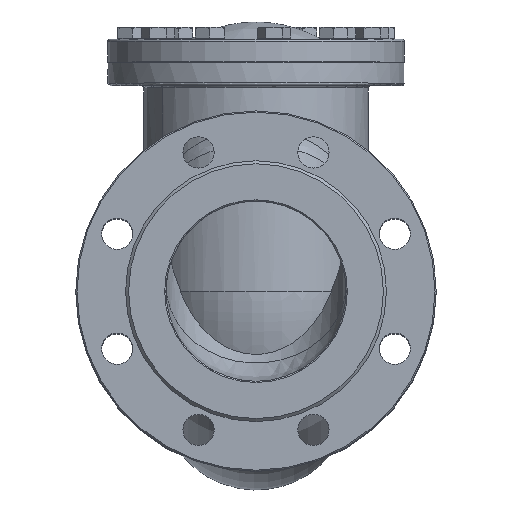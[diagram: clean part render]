
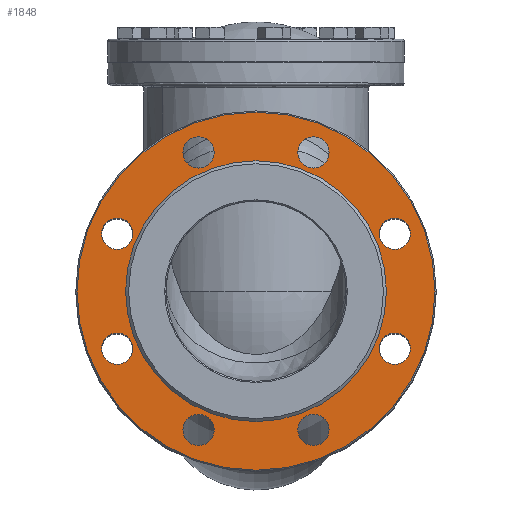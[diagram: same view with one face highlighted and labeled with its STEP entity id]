
A CAD part, top view. The second image highlights one B-rep face of the part: STEP entity #1848.
In plain terms, the highlighted planar face has unit normal (0, 0, 1).
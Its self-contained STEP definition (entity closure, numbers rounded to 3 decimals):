
#1848=ADVANCED_FACE('',(#8282,#8284,#8286,#8288,#8290,#8292,#8294,#8296,#8298,#8300),
#8302,.T.);
#8282=FACE_BOUND('',#8283,.T.);
#8283=EDGE_LOOP('',(#10478));
#8284=FACE_BOUND('',#8285,.T.);
#8285=EDGE_LOOP('',(#10479));
#8286=FACE_BOUND('',#8287,.T.);
#8287=EDGE_LOOP('',(#10480));
#8288=FACE_BOUND('',#8289,.T.);
#8289=EDGE_LOOP('',(#10481));
#8290=FACE_BOUND('',#8291,.T.);
#8291=EDGE_LOOP('',(#10482));
#8292=FACE_BOUND('',#8293,.T.);
#8293=EDGE_LOOP('',(#10483));
#8294=FACE_BOUND('',#8295,.T.);
#8295=EDGE_LOOP('',(#10484));
#8296=FACE_BOUND('',#8297,.T.);
#8297=EDGE_LOOP('',(#10485));
#8298=FACE_BOUND('',#8299,.T.);
#8299=EDGE_LOOP('',(#10486));
#8300=FACE_BOUND('',#8301,.T.);
#8301=EDGE_LOOP('',(#10487));
#8302=PLANE('',#8303);
#8303=AXIS2_PLACEMENT_3D('',#8304,#8305,#8306);
#8304=CARTESIAN_POINT('',(0.,0.,221.754));
#8305=DIRECTION('',(0.,0.,1.));
#8306=DIRECTION('',(1.,0.,0.));
#10478=ORIENTED_EDGE('',*,*,#11573,.F.);
#10479=ORIENTED_EDGE('',*,*,#11574,.F.);
#10480=ORIENTED_EDGE('',*,*,#11562,.T.);
#10481=ORIENTED_EDGE('',*,*,#11563,.T.);
#10482=ORIENTED_EDGE('',*,*,#11564,.T.);
#10483=ORIENTED_EDGE('',*,*,#11565,.T.);
#10484=ORIENTED_EDGE('',*,*,#11566,.T.);
#10485=ORIENTED_EDGE('',*,*,#11567,.T.);
#10486=ORIENTED_EDGE('',*,*,#11568,.T.);
#10487=ORIENTED_EDGE('',*,*,#11569,.T.);
#11562=EDGE_CURVE('',#13259,#13259,#13260,.T.);
#11563=EDGE_CURVE('',#13261,#13261,#13262,.T.);
#11564=EDGE_CURVE('',#13263,#13263,#13264,.T.);
#11565=EDGE_CURVE('',#13265,#13265,#13266,.T.);
#11566=EDGE_CURVE('',#13267,#13267,#13268,.T.);
#11567=EDGE_CURVE('',#13269,#13269,#13270,.T.);
#11568=EDGE_CURVE('',#13271,#13271,#13272,.T.);
#11569=EDGE_CURVE('',#13273,#13273,#13274,.T.);
#11573=EDGE_CURVE('',#13281,#13281,#13282,.T.);
#11574=EDGE_CURVE('',#13283,#13283,#13284,.T.);
#13259=VERTEX_POINT('',#26772);
#13260=CIRCLE('',#26773,13.);
#13261=VERTEX_POINT('',#26777);
#13262=CIRCLE('',#26778,13.);
#13263=VERTEX_POINT('',#26782);
#13264=CIRCLE('',#26783,13.);
#13265=VERTEX_POINT('',#26787);
#13266=CIRCLE('',#26788,13.);
#13267=VERTEX_POINT('',#26792);
#13268=CIRCLE('',#26793,13.);
#13269=VERTEX_POINT('',#26797);
#13270=CIRCLE('',#26798,13.);
#13271=VERTEX_POINT('',#26802);
#13272=CIRCLE('',#26803,13.);
#13273=VERTEX_POINT('',#26807);
#13274=CIRCLE('',#26808,13.);
#13281=VERTEX_POINT('',#26827);
#13282=CIRCLE('',#26828,149.);
#13283=VERTEX_POINT('',#26832);
#13284=CIRCLE('',#26833,108.5);
#26772=CARTESIAN_POINT('',(128.485,-47.835,221.754));
#26773=AXIS2_PLACEMENT_3D('',#26774,#26775,#26776);
#26774=CARTESIAN_POINT('',(115.485,-47.835,221.754));
#26775=DIRECTION('',(0.,0.,-1.));
#26776=DIRECTION('',(1.,0.,0.));
#26777=CARTESIAN_POINT('',(128.485,47.835,221.754));
#26778=AXIS2_PLACEMENT_3D('',#26779,#26780,#26781);
#26779=CARTESIAN_POINT('',(115.485,47.835,221.754));
#26780=DIRECTION('',(0.,0.,-1.));
#26781=DIRECTION('',(1.,0.,0.));
#26782=CARTESIAN_POINT('',(60.835,115.485,221.754));
#26783=AXIS2_PLACEMENT_3D('',#26784,#26785,#26786);
#26784=CARTESIAN_POINT('',(47.835,115.485,221.754));
#26785=DIRECTION('',(0.,0.,-1.));
#26786=DIRECTION('',(1.,0.,0.));
#26787=CARTESIAN_POINT('',(-34.835,115.485,221.754));
#26788=AXIS2_PLACEMENT_3D('',#26789,#26790,#26791);
#26789=CARTESIAN_POINT('',(-47.835,115.485,221.754));
#26790=DIRECTION('',(0.,0.,-1.));
#26791=DIRECTION('',(1.,0.,0.));
#26792=CARTESIAN_POINT('',(-102.485,47.835,221.754));
#26793=AXIS2_PLACEMENT_3D('',#26794,#26795,#26796);
#26794=CARTESIAN_POINT('',(-115.485,47.835,221.754));
#26795=DIRECTION('',(0.,0.,-1.));
#26796=DIRECTION('',(1.,0.,0.));
#26797=CARTESIAN_POINT('',(-102.485,-47.835,221.754));
#26798=AXIS2_PLACEMENT_3D('',#26799,#26800,#26801);
#26799=CARTESIAN_POINT('',(-115.485,-47.835,221.754));
#26800=DIRECTION('',(0.,0.,-1.));
#26801=DIRECTION('',(1.,0.,0.));
#26802=CARTESIAN_POINT('',(-34.835,-115.485,221.754));
#26803=AXIS2_PLACEMENT_3D('',#26804,#26805,#26806);
#26804=CARTESIAN_POINT('',(-47.835,-115.485,221.754));
#26805=DIRECTION('',(0.,0.,-1.));
#26806=DIRECTION('',(1.,0.,0.));
#26807=CARTESIAN_POINT('',(60.835,-115.485,221.754));
#26808=AXIS2_PLACEMENT_3D('',#26809,#26810,#26811);
#26809=CARTESIAN_POINT('',(47.835,-115.485,221.754));
#26810=DIRECTION('',(0.,0.,-1.));
#26811=DIRECTION('',(1.,0.,0.));
#26827=CARTESIAN_POINT('',(149.,0.,221.754));
#26828=AXIS2_PLACEMENT_3D('',#26829,#26830,#26831);
#26829=CARTESIAN_POINT('',(0.,0.,221.754));
#26830=DIRECTION('',(0.,0.,-1.));
#26831=DIRECTION('',(1.,0.,0.));
#26832=CARTESIAN_POINT('',(108.5,0.,221.754));
#26833=AXIS2_PLACEMENT_3D('',#26834,#26835,#26836);
#26834=CARTESIAN_POINT('',(0.,0.,221.754));
#26835=DIRECTION('',(0.,0.,1.));
#26836=DIRECTION('',(1.,0.,0.));
